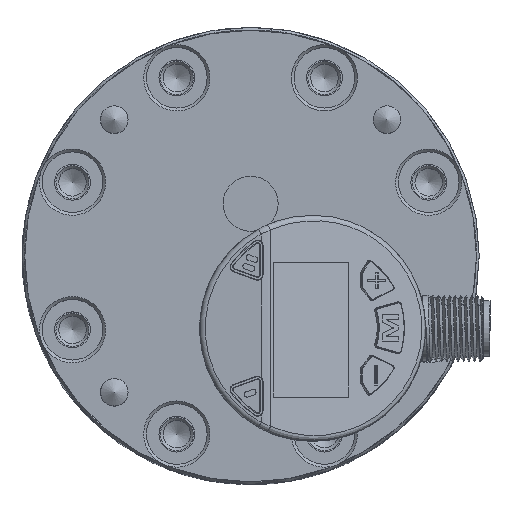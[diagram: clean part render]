
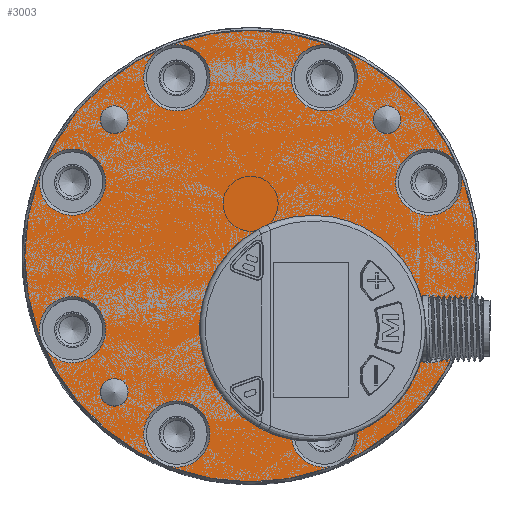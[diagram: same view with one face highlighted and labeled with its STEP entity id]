
A CAD part, top view. The second image highlights one B-rep face of the part: STEP entity #3003.
In plain terms, the highlighted planar face has unit normal (0, 0, -1).
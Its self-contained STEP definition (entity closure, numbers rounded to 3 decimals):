
#3003=ADVANCED_FACE('',(#3751,#3752,#3753,#3754,#3755,#3756,#3757,#3758,
#3759,#3760,#3761,#3762,#3763),#3522,.F.);
#3522=PLANE('',#9581);
#3751=FACE_BOUND('',#4212,.T.);
#3752=FACE_BOUND('',#4213,.T.);
#3753=FACE_BOUND('',#4214,.T.);
#3754=FACE_BOUND('',#4215,.T.);
#3755=FACE_BOUND('',#4216,.T.);
#3756=FACE_BOUND('',#4217,.T.);
#3757=FACE_BOUND('',#4218,.T.);
#3758=FACE_BOUND('',#4219,.T.);
#3759=FACE_BOUND('',#4220,.T.);
#3760=FACE_BOUND('',#4221,.T.);
#3761=FACE_BOUND('',#4222,.T.);
#3762=FACE_BOUND('',#4223,.T.);
#3763=FACE_BOUND('',#4224,.T.);
#4212=EDGE_LOOP('',(#5000));
#4213=EDGE_LOOP('',(#5001));
#4214=EDGE_LOOP('',(#5002));
#4215=EDGE_LOOP('',(#5003));
#4216=EDGE_LOOP('',(#5004));
#4217=EDGE_LOOP('',(#5005));
#4218=EDGE_LOOP('',(#5006));
#4219=EDGE_LOOP('',(#5007));
#4220=EDGE_LOOP('',(#5008));
#4221=EDGE_LOOP('',(#5009));
#4222=EDGE_LOOP('',(#5010));
#4223=EDGE_LOOP('',(#5011));
#4224=EDGE_LOOP('',(#5012));
#5000=ORIENTED_EDGE('',*,*,#7788,.T.);
#5001=ORIENTED_EDGE('',*,*,#7756,.T.);
#5002=ORIENTED_EDGE('',*,*,#7748,.T.);
#5003=ORIENTED_EDGE('',*,*,#7728,.T.);
#5004=ORIENTED_EDGE('',*,*,#7744,.T.);
#5005=ORIENTED_EDGE('',*,*,#7752,.T.);
#5006=ORIENTED_EDGE('',*,*,#7732,.T.);
#5007=ORIENTED_EDGE('',*,*,#7740,.T.);
#5008=ORIENTED_EDGE('',*,*,#7736,.T.);
#5009=ORIENTED_EDGE('',*,*,#7789,.T.);
#5010=ORIENTED_EDGE('',*,*,#7790,.T.);
#5011=ORIENTED_EDGE('',*,*,#7791,.T.);
#5012=ORIENTED_EDGE('',*,*,#7792,.T.);
#6992=VERTEX_POINT('',#12919);
#6996=VERTEX_POINT('',#12930);
#7000=VERTEX_POINT('',#12941);
#7004=VERTEX_POINT('',#12952);
#7008=VERTEX_POINT('',#12963);
#7012=VERTEX_POINT('',#12974);
#7016=VERTEX_POINT('',#12985);
#7020=VERTEX_POINT('',#12996);
#7044=VERTEX_POINT('',#13056);
#7045=VERTEX_POINT('',#13058);
#7046=VERTEX_POINT('',#13060);
#7047=VERTEX_POINT('',#13062);
#7048=VERTEX_POINT('',#13064);
#7728=EDGE_CURVE('',#6992,#6992,#8762,.T.);
#7732=EDGE_CURVE('',#6996,#6996,#8766,.T.);
#7736=EDGE_CURVE('',#7000,#7000,#8770,.T.);
#7740=EDGE_CURVE('',#7004,#7004,#8774,.T.);
#7744=EDGE_CURVE('',#7008,#7008,#8778,.T.);
#7748=EDGE_CURVE('',#7012,#7012,#8782,.T.);
#7752=EDGE_CURVE('',#7016,#7016,#8786,.T.);
#7756=EDGE_CURVE('',#7020,#7020,#8790,.T.);
#7788=EDGE_CURVE('',#7044,#7044,#8822,.T.);
#7789=EDGE_CURVE('',#7045,#7045,#8823,.T.);
#7790=EDGE_CURVE('',#7046,#7046,#8824,.T.);
#7791=EDGE_CURVE('',#7047,#7047,#8825,.T.);
#7792=EDGE_CURVE('',#7048,#7048,#8826,.T.);
#8762=CIRCLE('',#9491,3.25);
#8766=CIRCLE('',#9498,3.25);
#8770=CIRCLE('',#9505,3.25);
#8774=CIRCLE('',#9512,3.25);
#8778=CIRCLE('',#9519,3.25);
#8782=CIRCLE('',#9526,3.25);
#8786=CIRCLE('',#9533,3.25);
#8790=CIRCLE('',#9540,3.25);
#8822=CIRCLE('',#9576,41.);
#8823=CIRCLE('',#9577,2.5);
#8824=CIRCLE('',#9578,2.5);
#8825=CIRCLE('',#9579,2.5);
#8826=CIRCLE('',#9580,2.5);
#9491=AXIS2_PLACEMENT_3D('',#12918,#10509,#10510);
#9498=AXIS2_PLACEMENT_3D('',#12929,#10523,#10524);
#9505=AXIS2_PLACEMENT_3D('',#12940,#10537,#10538);
#9512=AXIS2_PLACEMENT_3D('',#12951,#10551,#10552);
#9519=AXIS2_PLACEMENT_3D('',#12962,#10565,#10566);
#9526=AXIS2_PLACEMENT_3D('',#12973,#10579,#10580);
#9533=AXIS2_PLACEMENT_3D('',#12984,#10593,#10594);
#9540=AXIS2_PLACEMENT_3D('',#12995,#10607,#10608);
#9576=AXIS2_PLACEMENT_3D('',#13055,#10679,#10680);
#9577=AXIS2_PLACEMENT_3D('',#13057,#10681,#10682);
#9578=AXIS2_PLACEMENT_3D('',#13059,#10683,#10684);
#9579=AXIS2_PLACEMENT_3D('',#13061,#10685,#10686);
#9580=AXIS2_PLACEMENT_3D('',#13063,#10687,#10688);
#9581=AXIS2_PLACEMENT_3D('',#13065,#10689,#10690);
#10509=DIRECTION('',(0.,0.,1.));
#10510=DIRECTION('',(1.,0.,0.));
#10523=DIRECTION('',(0.,0.,1.));
#10524=DIRECTION('',(1.,0.,0.));
#10537=DIRECTION('',(0.,0.,1.));
#10538=DIRECTION('',(1.,0.,0.));
#10551=DIRECTION('',(0.,0.,1.));
#10552=DIRECTION('',(1.,0.,0.));
#10565=DIRECTION('',(0.,0.,1.));
#10566=DIRECTION('',(1.,0.,0.));
#10579=DIRECTION('',(0.,0.,1.));
#10580=DIRECTION('',(1.,0.,0.));
#10593=DIRECTION('',(0.,0.,1.));
#10594=DIRECTION('',(1.,0.,0.));
#10607=DIRECTION('',(0.,0.,1.));
#10608=DIRECTION('',(1.,0.,0.));
#10679=DIRECTION('',(0.,0.,-1.));
#10680=DIRECTION('',(1.,0.,0.));
#10681=DIRECTION('',(0.,0.,1.));
#10682=DIRECTION('',(1.,0.,0.));
#10683=DIRECTION('',(0.,0.,1.));
#10684=DIRECTION('',(1.,0.,0.));
#10685=DIRECTION('',(0.,0.,1.));
#10686=DIRECTION('',(1.,0.,0.));
#10687=DIRECTION('',(0.,0.,1.));
#10688=DIRECTION('',(1.,0.,0.));
#10689=DIRECTION('',(0.,0.,1.));
#10690=DIRECTION('',(1.,0.,0.));
#12918=CARTESIAN_POINT('',(32.336,14.394,38.));
#12919=CARTESIAN_POINT('',(35.586,14.394,38.));
#12929=CARTESIAN_POINT('',(-13.394,-31.336,38.));
#12930=CARTESIAN_POINT('',(-10.144,-31.336,38.));
#12940=CARTESIAN_POINT('',(-32.336,14.394,38.));
#12941=CARTESIAN_POINT('',(-29.086,14.394,38.));
#12951=CARTESIAN_POINT('',(-32.336,-12.394,38.));
#12952=CARTESIAN_POINT('',(-29.086,-12.394,38.));
#12962=CARTESIAN_POINT('',(32.336,-12.394,38.));
#12963=CARTESIAN_POINT('',(35.586,-12.394,38.));
#12973=CARTESIAN_POINT('',(13.394,33.336,38.));
#12974=CARTESIAN_POINT('',(16.644,33.336,38.));
#12984=CARTESIAN_POINT('',(13.394,-31.336,38.));
#12985=CARTESIAN_POINT('',(16.644,-31.336,38.));
#12995=CARTESIAN_POINT('',(-13.394,33.336,38.));
#12996=CARTESIAN_POINT('',(-10.144,33.336,38.));
#13055=CARTESIAN_POINT('',(0.,1.,38.));
#13056=CARTESIAN_POINT('',(41.,1.,38.));
#13057=CARTESIAN_POINT('',(-24.749,-23.749,38.));
#13058=CARTESIAN_POINT('',(-22.249,-23.749,38.));
#13059=CARTESIAN_POINT('',(24.749,-23.749,38.));
#13060=CARTESIAN_POINT('',(27.249,-23.749,38.));
#13061=CARTESIAN_POINT('',(24.749,25.749,38.));
#13062=CARTESIAN_POINT('',(27.249,25.749,38.));
#13063=CARTESIAN_POINT('',(-24.749,25.749,38.));
#13064=CARTESIAN_POINT('',(-22.249,25.749,38.));
#13065=CARTESIAN_POINT('',(0.,1.,38.));
